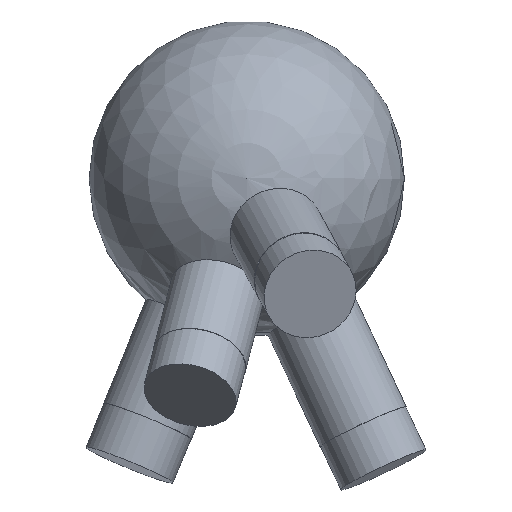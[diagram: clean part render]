
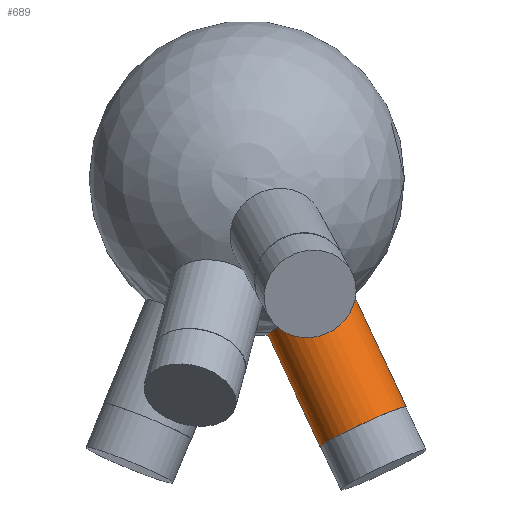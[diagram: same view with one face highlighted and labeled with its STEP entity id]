
A CAD part, top view. The second image highlights one B-rep face of the part: STEP entity #689.
In plain terms, the highlighted cylindrical face has radius 6 mm (diameter 12 mm), a full revolution.
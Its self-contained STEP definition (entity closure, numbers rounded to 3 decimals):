
#33 = SPHERICAL_SURFACE('',#34,20.);
#34 = AXIS2_PLACEMENT_3D('',#35,#36,#37);
#35 = CARTESIAN_POINT('',(0.,0.,0.));
#36 = DIRECTION('',(0.,0.,1.));
#37 = DIRECTION('',(1.,0.,-0.));
#260 = EDGE_CURVE('',#261,#261,#263,.T.);
#261 = VERTEX_POINT('',#262);
#262 = CARTESIAN_POINT('',(2.641,-19.78,1.337)
  );
#263 = SURFACE_CURVE('',#264,(#269,#331),.PCURVE_S1.);
#264 = CIRCLE('',#265,6.);
#265 = AXIS2_PLACEMENT_3D('',#266,#267,#268);
#266 = CARTESIAN_POINT('',(8.075,-17.234,1.337
    ));
#267 = DIRECTION('',(0.423,-0.903,0.07));
#268 = DIRECTION('',(0.906,0.424,0.)
  );
#269 = PCURVE('',#33,#270);
#270 = DEFINITIONAL_REPRESENTATION('',(#271),#330);
#271 = B_SPLINE_CURVE_WITH_KNOTS('',8,(#272,#273,#274,#275,#276,#277,
    #278,#279,#280,#281,#282,#283,#284,#285,#286,#287,#288,#289,#290,
    #291,#292,#293,#294,#295,#296,#297,#298,#299,#300,#301,#302,#303,
    #304,#305,#306,#307,#308,#309,#310,#311,#312,#313,#314,#315,#316,
    #317,#318,#319,#320,#321,#322,#323,#324,#325,#326,#327,#328,#329),
  .UNSPECIFIED.,.F.,.F.,(9,7,7,7,7,7,7,7,9),(3.142,
    3.927,4.614,5.216,6.268,
    7.057,7.649,8.537,9.425),
  .UNSPECIFIED.);
#272 = CARTESIAN_POINT('',(4.845,0.067));
#273 = CARTESIAN_POINT('',(4.846,0.037));
#274 = CARTESIAN_POINT('',(4.85,0.008));
#275 = CARTESIAN_POINT('',(4.856,-0.021));
#276 = CARTESIAN_POINT('',(4.866,-0.049));
#277 = CARTESIAN_POINT('',(4.879,-0.076));
#278 = CARTESIAN_POINT('',(4.895,-0.101));
#279 = CARTESIAN_POINT('',(4.914,-0.124));
#280 = CARTESIAN_POINT('',(4.953,-0.164));
#281 = CARTESIAN_POINT('',(4.973,-0.18));
#282 = CARTESIAN_POINT('',(4.995,-0.195));
#283 = CARTESIAN_POINT('',(5.018,-0.207));
#284 = CARTESIAN_POINT('',(5.042,-0.218));
#285 = CARTESIAN_POINT('',(5.068,-0.225));
#286 = CARTESIAN_POINT('',(5.094,-0.23));
#287 = CARTESIAN_POINT('',(5.143,-0.235));
#288 = CARTESIAN_POINT('',(5.167,-0.236));
#289 = CARTESIAN_POINT('',(5.19,-0.234));
#290 = CARTESIAN_POINT('',(5.213,-0.23));
#291 = CARTESIAN_POINT('',(5.236,-0.225));
#292 = CARTESIAN_POINT('',(5.257,-0.217));
#293 = CARTESIAN_POINT('',(5.279,-0.208));
#294 = CARTESIAN_POINT('',(5.334,-0.177));
#295 = CARTESIAN_POINT('',(5.366,-0.153));
#296 = CARTESIAN_POINT('',(5.393,-0.123));
#297 = CARTESIAN_POINT('',(5.417,-0.09));
#298 = CARTESIAN_POINT('',(5.435,-0.054));
#299 = CARTESIAN_POINT('',(5.447,-0.016));
#300 = CARTESIAN_POINT('',(5.454,0.023));
#301 = CARTESIAN_POINT('',(5.457,0.092));
#302 = CARTESIAN_POINT('',(5.455,0.122));
#303 = CARTESIAN_POINT('',(5.449,0.151));
#304 = CARTESIAN_POINT('',(5.441,0.18));
#305 = CARTESIAN_POINT('',(5.429,0.207));
#306 = CARTESIAN_POINT('',(5.414,0.233));
#307 = CARTESIAN_POINT('',(5.396,0.258));
#308 = CARTESIAN_POINT('',(5.36,0.296));
#309 = CARTESIAN_POINT('',(5.343,0.311));
#310 = CARTESIAN_POINT('',(5.325,0.325));
#311 = CARTESIAN_POINT('',(5.305,0.337));
#312 = CARTESIAN_POINT('',(5.284,0.348));
#313 = CARTESIAN_POINT('',(5.262,0.357));
#314 = CARTESIAN_POINT('',(5.239,0.363));
#315 = CARTESIAN_POINT('',(5.181,0.375));
#316 = CARTESIAN_POINT('',(5.145,0.378));
#317 = CARTESIAN_POINT('',(5.109,0.376));
#318 = CARTESIAN_POINT('',(5.073,0.37));
#319 = CARTESIAN_POINT('',(5.039,0.359));
#320 = CARTESIAN_POINT('',(5.006,0.344));
#321 = CARTESIAN_POINT('',(4.977,0.326));
#322 = CARTESIAN_POINT('',(4.925,0.282));
#323 = CARTESIAN_POINT('',(4.902,0.256));
#324 = CARTESIAN_POINT('',(4.882,0.228));
#325 = CARTESIAN_POINT('',(4.867,0.198));
#326 = CARTESIAN_POINT('',(4.855,0.166));
#327 = CARTESIAN_POINT('',(4.848,0.134));
#328 = CARTESIAN_POINT('',(4.844,0.1));
#329 = CARTESIAN_POINT('',(4.845,0.067));
#330 = ( GEOMETRIC_REPRESENTATION_CONTEXT(2) 
PARAMETRIC_REPRESENTATION_CONTEXT() REPRESENTATION_CONTEXT('2D SPACE',''
  ) );
#331 = PCURVE('',#332,#337);
#332 = CYLINDRICAL_SURFACE('',#333,6.);
#333 = AXIS2_PLACEMENT_3D('',#334,#335,#336);
#334 = CARTESIAN_POINT('',(0.,0.,0.));
#335 = DIRECTION('',(0.423,-0.903,0.07));
#336 = DIRECTION('',(-0.906,-0.424,0.)
  );
#337 = DEFINITIONAL_REPRESENTATION('',(#338),#342);
#338 = LINE('',#339,#340);
#339 = CARTESIAN_POINT('',(-3.142,19.079));
#340 = VECTOR('',#341,1.);
#341 = DIRECTION('',(1.,0.));
#342 = ( GEOMETRIC_REPRESENTATION_CONTEXT(2) 
PARAMETRIC_REPRESENTATION_CONTEXT() REPRESENTATION_CONTEXT('2D SPACE',''
  ) );
#689 = ADVANCED_FACE('',(#690),#332,.T.);
#690 = FACE_BOUND('',#691,.T.);
#691 = EDGE_LOOP('',(#692,#715,#742,#743));
#692 = ORIENTED_EDGE('',*,*,#693,.T.);
#693 = EDGE_CURVE('',#261,#694,#696,.T.);
#694 = VERTEX_POINT('',#695);
#695 = CARTESIAN_POINT('',(9.31,-34.012,2.442
    ));
#696 = SEAM_CURVE('',#697,(#701,#708),.PCURVE_S1.);
#697 = LINE('',#698,#699);
#698 = CARTESIAN_POINT('',(-5.433,-2.546,
    0.));
#699 = VECTOR('',#700,1.);
#700 = DIRECTION('',(0.423,-0.903,0.07));
#701 = PCURVE('',#332,#702);
#702 = DEFINITIONAL_REPRESENTATION('',(#703),#707);
#703 = LINE('',#704,#705);
#704 = CARTESIAN_POINT('',(6.283,-0.));
#705 = VECTOR('',#706,1.);
#706 = DIRECTION('',(0.,1.));
#707 = ( GEOMETRIC_REPRESENTATION_CONTEXT(2) 
PARAMETRIC_REPRESENTATION_CONTEXT() REPRESENTATION_CONTEXT('2D SPACE',''
  ) );
#708 = PCURVE('',#332,#709);
#709 = DEFINITIONAL_REPRESENTATION('',(#710),#714);
#710 = LINE('',#711,#712);
#711 = CARTESIAN_POINT('',(0.,-0.));
#712 = VECTOR('',#713,1.);
#713 = DIRECTION('',(0.,1.));
#714 = ( GEOMETRIC_REPRESENTATION_CONTEXT(2) 
PARAMETRIC_REPRESENTATION_CONTEXT() REPRESENTATION_CONTEXT('2D SPACE',''
  ) );
#715 = ORIENTED_EDGE('',*,*,#716,.F.);
#716 = EDGE_CURVE('',#694,#694,#717,.T.);
#717 = SURFACE_CURVE('',#718,(#723,#730),.PCURVE_S1.);
#718 = CIRCLE('',#719,6.);
#719 = AXIS2_PLACEMENT_3D('',#720,#721,#722);
#720 = CARTESIAN_POINT('',(14.743,-31.466,
    2.442));
#721 = DIRECTION('',(0.423,-0.903,0.07));
#722 = DIRECTION('',(-0.906,-0.424,0.)
  );
#723 = PCURVE('',#332,#724);
#724 = DEFINITIONAL_REPRESENTATION('',(#725),#729);
#725 = LINE('',#726,#727);
#726 = CARTESIAN_POINT('',(0.,34.834));
#727 = VECTOR('',#728,1.);
#728 = DIRECTION('',(1.,0.));
#729 = ( GEOMETRIC_REPRESENTATION_CONTEXT(2) 
PARAMETRIC_REPRESENTATION_CONTEXT() REPRESENTATION_CONTEXT('2D SPACE',''
  ) );
#730 = PCURVE('',#731,#736);
#731 = PLANE('',#732);
#732 = AXIS2_PLACEMENT_3D('',#733,#734,#735);
#733 = CARTESIAN_POINT('',(14.743,-31.466,
    2.442));
#734 = DIRECTION('',(0.423,-0.903,0.07));
#735 = DIRECTION('',(-0.906,-0.424,0.)
  );
#736 = DEFINITIONAL_REPRESENTATION('',(#737),#741);
#737 = CIRCLE('',#738,6.);
#738 = AXIS2_PLACEMENT_2D('',#739,#740);
#739 = CARTESIAN_POINT('',(0.,0.));
#740 = DIRECTION('',(1.,0.));
#741 = ( GEOMETRIC_REPRESENTATION_CONTEXT(2) 
PARAMETRIC_REPRESENTATION_CONTEXT() REPRESENTATION_CONTEXT('2D SPACE',''
  ) );
#742 = ORIENTED_EDGE('',*,*,#693,.F.);
#743 = ORIENTED_EDGE('',*,*,#260,.T.);
